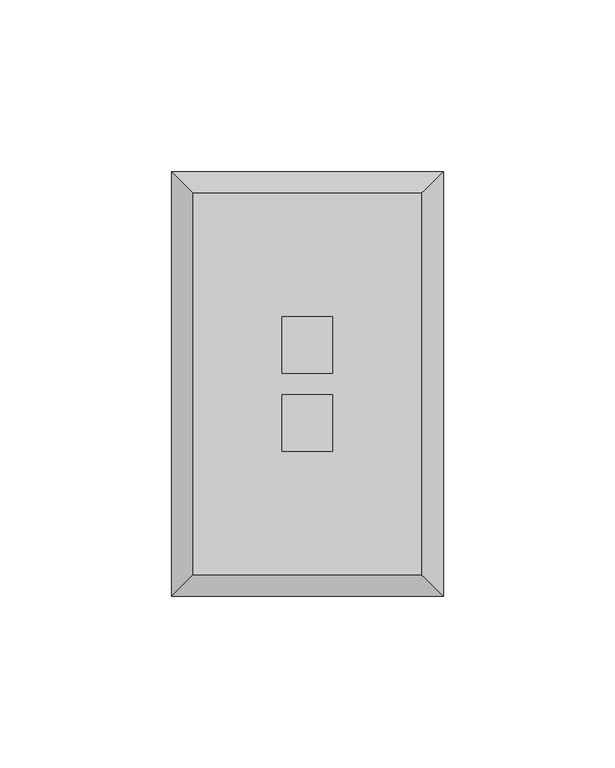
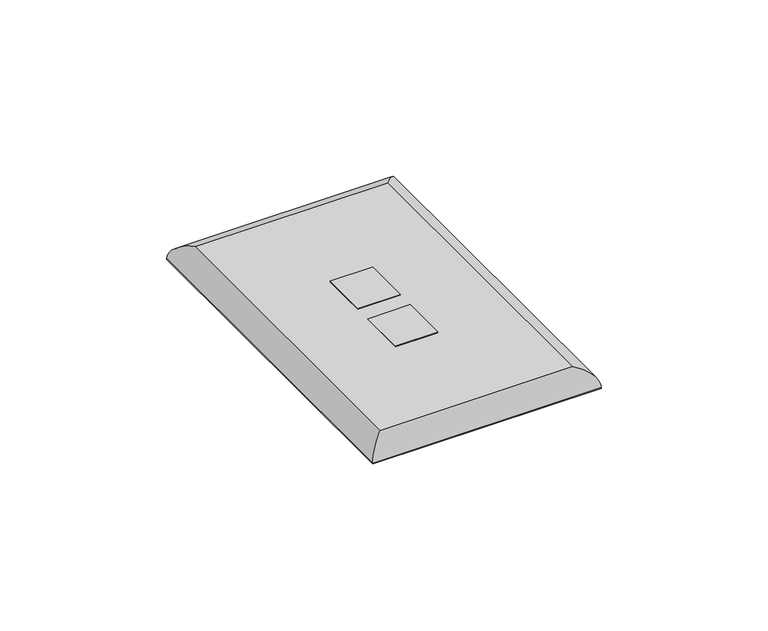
"""IFC4 building model written with IfcOpenShell, lengths in millimetres: electric appliance geometry, Data_Device-Work_Area-Leviton-QuickPort-Wallplate : 2 Ports, Single Gang, Midsize."""

from ifc_helpers import new_model, si_unit, frame, origin, origin_with_axes, place, context, project, spatial, polyline, ellipse_curve, outline, extrude, source, transform, mapped, element, save
from ifc_brep_helpers import plane_surface, cylinder_surface, advanced_brep


def electric_appliance_be22f11a(model_context):
    return source(origin(), model_context, "Body", "SolidModel", [
        extrude(outline(polyline([(-15.6591, 27.813), (-15.6591, 11.303), (-30.3911, 11.303), (-30.3911, 27.813), (-15.6591, 27.813)])), origin_with_axes(), (0.0, 0.0, 1.0), 6.35),
        extrude(outline(polyline([(-15.6591, -11.43), (-30.3911, -11.43), (-30.3911, 5.08), (-15.6591, 5.08), (-15.6591, -11.43)])), origin_with_axes(), (0.0, 0.0, 1.0), 6.35),
        advanced_brep(
        [(10.2489, -47.3075, 6.35), (10.2489, 63.6905, 6.35), (-56.2991, 63.6905, 6.35), (-56.2991, -47.3075, 6.35), (-30.3911, 27.813, 6.35), (-15.6591, 27.813, 6.35), (-15.6591, 11.303, 6.35), (-30.3911, 11.303, 6.35), (-30.3911, 5.08, 6.35), (-15.6591, 5.08, 6.35), (-15.6591, -11.43, 6.35), (-30.3911, -11.43, 6.35), (16.5989, 70.0405, 0.0), (16.5989, -53.6575, 0.0), (-62.6491, -53.6575, 0.0), (-62.6491, 70.0405, 0.0), (-15.6591, 27.813, 0.0), (-30.3911, 27.813, 0.0), (-30.3911, 11.303, 0.0), (-15.6591, 11.303, 0.0), (-15.6591, 5.08, 0.0), (-30.3911, 5.08, 0.0), (-30.3911, -11.43, 0.0), (-15.6591, -11.43, 0.0), (-62.6491, 70.0405, 0.254), (16.5989, 70.0405, 0.254), (-62.6491, -53.6575, 0.254), (16.5989, -53.6575, 0.254)],
        [
            (0, 1),
            (1, 2),
            (2, 3),
            (3, 0),
            (4, 5),
            (5, 6),
            (6, 7),
            (7, 4),
            (8, 9),
            (9, 10),
            (10, 11),
            (11, 8),
            (12, 13),
            (13, 14),
            (14, 15),
            (15, 12),
            (16, 17),
            (17, 18),
            (18, 19),
            (19, 16),
            (20, 21),
            (21, 22),
            (22, 23),
            (23, 20),
            (15, 24),
            (24, 25),
            (25, 12),
            (14, 26),
            (26, 24),
            (13, 27),
            (27, 26),
            (25, 27),
            (4, 17),
            (16, 5),
            (7, 18),
            (6, 19),
            (8, 21),
            (20, 9),
            (11, 22),
            (10, 23),
            (0, 27, ellipse_curve(frame((10.2489, -47.3075, -0.0052917), z_axis=(0.7071067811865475, 0.7071067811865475, 0.0), x_axis=(0.7071067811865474, -0.7071067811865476, 0.0)), 8.9877397, 6.3552917)),
            (25, 1, ellipse_curve(frame((10.2489, 63.6905, -0.0052917), z_axis=(0.7071067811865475, -0.7071067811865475, 0.0), x_axis=(-0.7071067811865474, -0.7071067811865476, 0.0)), 8.9877397, 6.3552917)),
            (3, 26, ellipse_curve(frame((-56.2991, -47.3075, -0.0052917), z_axis=(0.7071067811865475, -0.7071067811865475, 0.0), x_axis=(-0.7071067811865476, -0.7071067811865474, 0.0)), 8.9877397, 6.3552917)),
            (2, 24, ellipse_curve(frame((-56.2991, 63.6905, -0.0052917), z_axis=(-0.7071067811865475, -0.7071067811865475, 0.0), x_axis=(-0.7071067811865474, 0.7071067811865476, 0.0)), 8.9877397, 6.3552917)),
        ],
        [
            plane_surface(frame((-62.6491, 70.0405, 6.35), z_axis=(0.0, 0.0, 1.0), x_axis=(-1.0, 0.0, 0.0))),
            plane_surface(frame((-62.6491, 70.0405, 0.0), z_axis=(0.0, 0.0, -1.0), x_axis=(1.0, 0.0, 0.0))),
            plane_surface(frame((16.5989, 70.0405, 6.35), z_axis=(0.0, 1.0, 0.0), x_axis=(0.0, 0.0, -1.0))),
            plane_surface(frame((-62.6491, 70.0405, 6.35), z_axis=(-1.0, 0.0, 0.0), x_axis=(0.0, 0.0, -1.0))),
            plane_surface(frame((-62.6491, -53.6575, 6.35), z_axis=(0.0, -1.0, 0.0), x_axis=(0.0, 0.0, -1.0))),
            plane_surface(frame((16.5989, -53.6575, 6.35), z_axis=(1.0, 0.0, 0.0), x_axis=(0.0, 0.0, -1.0))),
            plane_surface(frame((-15.6591, 27.813, 6.35), z_axis=(0.0, -1.0, 0.0), x_axis=(0.0, 0.0, -1.0))),
            plane_surface(frame((-30.3911, 27.813, 6.35), z_axis=(1.0, 0.0, 0.0), x_axis=(0.0, 0.0, -1.0))),
            plane_surface(frame((-30.3911, 11.303, 6.35), z_axis=(0.0, 1.0, 0.0), x_axis=(0.0, 0.0, -1.0))),
            plane_surface(frame((-15.6591, 11.303, 6.35), z_axis=(-1.0, 0.0, 0.0), x_axis=(0.0, 0.0, -1.0))),
            plane_surface(frame((-15.6591, 5.08, 6.35), z_axis=(0.0, -1.0, 0.0), x_axis=(0.0, 0.0, -1.0))),
            plane_surface(frame((-30.3911, 5.08, 6.35), z_axis=(1.0, 0.0, 0.0), x_axis=(0.0, 0.0, -1.0))),
            plane_surface(frame((-30.3911, -11.43, 6.35), z_axis=(0.0, 1.0, 0.0), x_axis=(0.0, 0.0, -1.0))),
            plane_surface(frame((-15.6591, -11.43, 6.35), z_axis=(-1.0, 0.0, 0.0), x_axis=(0.0, 0.0, -1.0))),
            cylinder_surface(frame((10.2489, 70.0405, -0.0052917), z_axis=(0.0, -1.0, 0.0), x_axis=(1.0, 0.0, 0.0)), 6.3552917),
            cylinder_surface(frame((16.5989, -47.3075, -0.0052917), z_axis=(-1.0, 0.0, 0.0), x_axis=(0.0, -1.0, 0.0)), 6.3552917),
            cylinder_surface(frame((-56.2991, -53.6575, -0.0052917), z_axis=(0.0, 1.0, 0.0), x_axis=(-1.0, 0.0, 0.0)), 6.3552917),
            cylinder_surface(frame((-62.6491, 63.6905, -0.0052917), z_axis=(1.0, 0.0, 0.0), x_axis=(0.0, 1.0, 0.0)), 6.3552917),
        ],
        [
            (0, [[1, 2, 3, 4], [5, 6, 7, 8], [9, 10, 11, 12]]),
            (1, [[13, 14, 15, 16], [17, 18, 19, 20], [21, 22, 23, 24]]),
            (2, [[-16, 25, 26, 27]]),
            (3, [[-15, 28, 29, -25]]),
            (4, [[-14, 30, 31, -28]]),
            (5, [[-13, -27, 32, -30]]),
            (6, [[33, -17, 34, -5]]),
            (7, [[-33, -8, 35, -18]]),
            (8, [[-35, -7, 36, -19]]),
            (9, [[-34, -20, -36, -6]]),
            (10, [[37, -21, 38, -9]]),
            (11, [[-37, -12, 39, -22]]),
            (12, [[-39, -11, 40, -23]]),
            (13, [[-38, -24, -40, -10]]),
            (14, [[41, -32, 42, -1]]),
            (15, [[-41, -4, 43, -31]]),
            (16, [[-43, -3, 44, -29]]),
            (17, [[-42, -26, -44, -2]]),
        ],
    ),
        extrude(outline(polyline([(16.3449, 69.7865), (16.3449, -53.4035), (-62.3951, -53.4035), (-62.3951, 69.7865), (16.3449, 69.7865)]), holes=[polyline([(-15.6591, 27.813), (-30.3911, 27.813), (-30.3911, 11.303), (-15.6591, 11.303), (-15.6591, 27.813)]), polyline([(-15.6591, 5.08), (-30.3911, 5.08), (-30.3911, -11.43), (-15.6591, -11.43), (-15.6591, 5.08)])]), origin_with_axes(), (0.0, 0.0, 1.0), 0.254),
    ])


if __name__ == "__main__":
    model = new_model("IFC4")
    model_context = context("Model", 3, world=origin())
    ifc_project = project(units=[si_unit("LENGTHUNIT", "METRE", prefix="MILLI")], contexts=[model_context])
    site = spatial("IfcSite", under=ifc_project)
    building = spatial("IfcBuilding", under=site)
    placement = place(None, origin())
    electric_appliance_shape = electric_appliance_be22f11a(model_context)
    element("IfcElectricAppliance", 1, ObjectType="Data_Device-Work_Area-Leviton-QuickPort-Wallplate : 2 Ports, Single Gang, Midsize", at=placement, inside=building, context=model_context, shape_type="MappedRepresentation", body=[
        mapped(electric_appliance_shape, transform((0.0, 0.0, 0.0), x_axis=(1.0, 0.0, 0.0), y_axis=(0.0, 1.0, 0.0), z_axis=(0.0, 0.0, 1.0))),
    ])
    save(model, "model.ifc")
